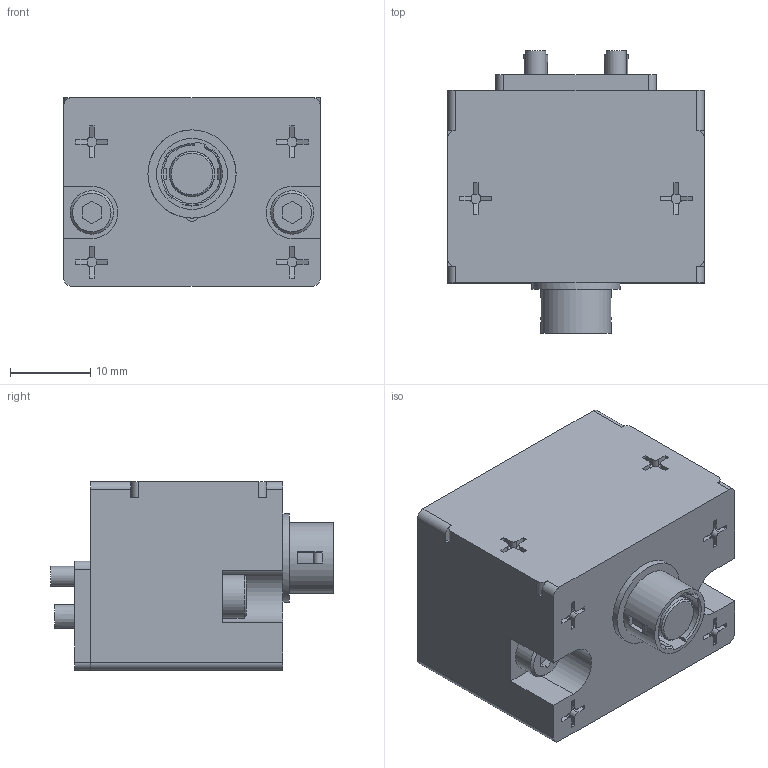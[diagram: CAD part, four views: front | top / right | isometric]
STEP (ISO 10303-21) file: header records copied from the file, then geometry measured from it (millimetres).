
FILE_DESCRIPTION(('STEP AP214'),'1');
FILE_NAME('KHB-1RS-D14C_ver1.stp','2026-04-23T23:27:08',(' '),(' '),'Spatial InterOp 3D',' ',' ');
FILE_SCHEMA(('AUTOMOTIVE_DESIGN { 1 0 10303 214 1 1 1 1 }'));
Length unit declared in the file: millimetre
Products named in the file (1): KHB-1RS-D14C_ver1
Bounding box: 32 x 35.3 x 23.5 mm (x, y, z)
Volume: 18103.6 mm3; surface area: 6848.9 mm2
Topology: 1 solids, 21 shells, 510 faces, 1254 edges, 817 vertices
Faces by surface type: plane 356, cylinder 128, cone 26
Full cylindrical faces by diameter (mm): 0.8 x2, 1.02 x4, 1.8 x4, 2 x4, 2.15 x6, 2.5 x8, 3 x8, 3.5 x4, 5.41 x4, 5.6 x1, 5.7 x1, 6.5 x2, 8 x1, 8.85 x1, 11 x1
Entity records: 19968 total; most frequent: CARTESIAN_POINT 2507, DIRECTION 2493, ORIENTED_EDGE 2310, EDGE_CURVE 1155, AXIS2_PLACEMENT_3D 839, LINE 815, VECTOR 815, STYLED_ITEM 801
